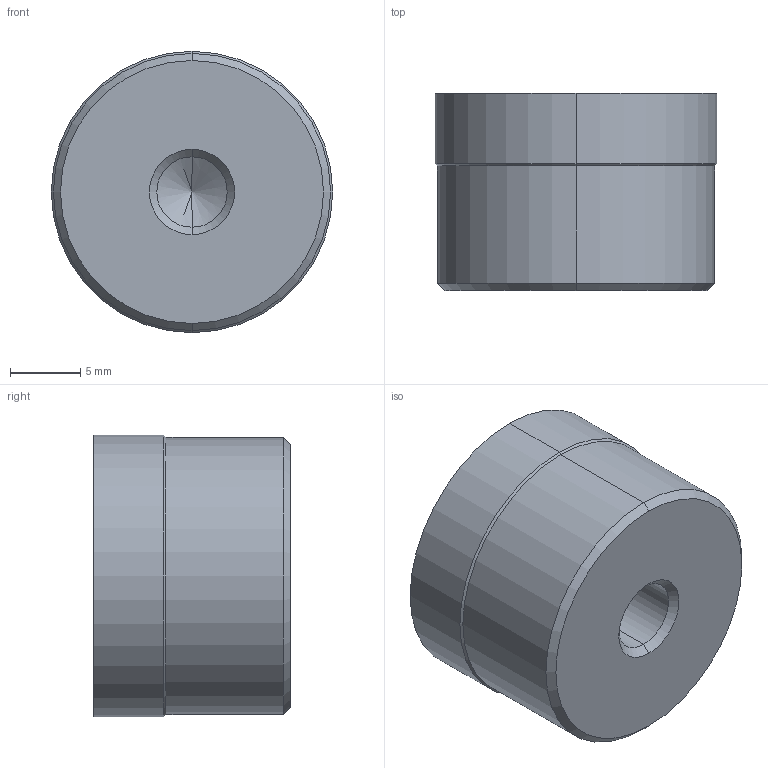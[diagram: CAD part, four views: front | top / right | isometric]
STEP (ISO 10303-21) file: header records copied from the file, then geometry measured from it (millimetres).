
FILE_DESCRIPTION (( 'STEP AP203' ), '1' );
FILE_NAME ('DAP-20N.STEP', '2016-01-11T15:28:03', ( 'Balzi' ), ( '' ), 'SwSTEP 2.0', 'SolidWorks 2015', '' );
FILE_SCHEMA (( 'CONFIG_CONTROL_DESIGN' ));
Length unit declared in the file: millimetre
Products named in the file (1): DAP-20N
Bounding box: 20 x 14 x 20 mm (x, y, z)
Volume: 4065.9 mm3; surface area: 1685 mm2
Topology: 1 solids, 1 shells, 96 faces, 266 edges, 173 vertices
Faces by surface type: cylinder 48, plane 40, cone 8
Entity records: 3153 total; most frequent: DIRECTION 558, CARTESIAN_POINT 534, ORIENTED_EDGE 528, EDGE_CURVE 264, AXIS2_PLACEMENT_3D 197, VERTEX_POINT 173, VECTOR 164, LINE 164
